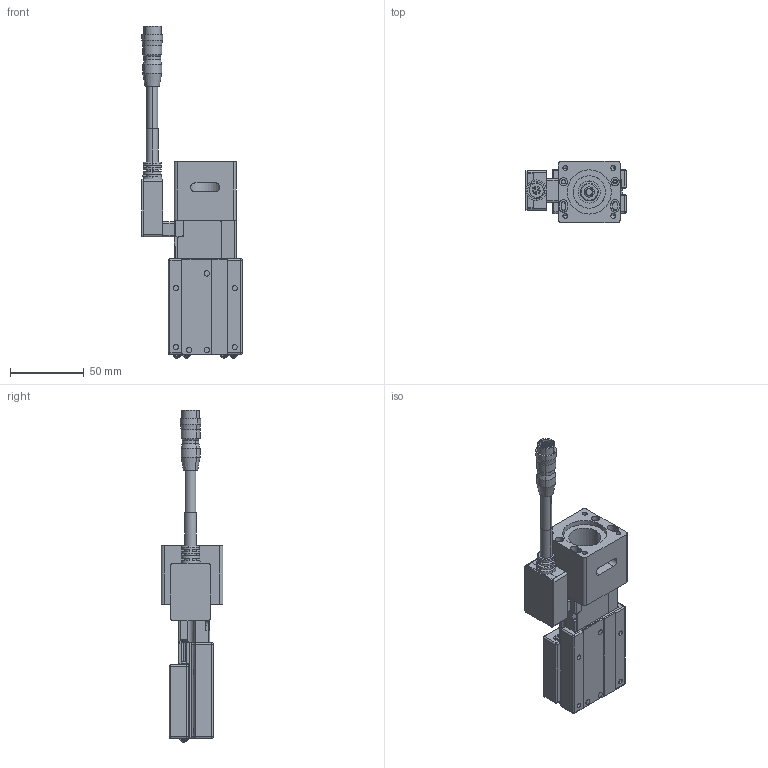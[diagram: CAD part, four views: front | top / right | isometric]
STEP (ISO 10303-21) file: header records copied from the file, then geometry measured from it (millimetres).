
FILE_DESCRIPTION (( 'STEP AP203' ), '1' );
FILE_NAME ('CXS5030(伺服M無馬達).STEP', '2023-12-12T00:07:06', ( '' ), ( '' ), 'SwSTEP 2.0', 'SolidWorks 2019', '' );
FILE_SCHEMA (( 'CONFIG_CONTROL_DESIGN' ));
Length unit declared in the file: millimetre
Products named in the file (6): HR10A-10J-12P; CXS5030(伺服M無馬達); Group2^CXS5030(伺服M無馬達)_defeature_GMT; 伺服馬達轉接板(P.C.D 46).step_GMT; Group1^CXS5030(伺服M無馬達)_defeature_GMT; 伺服馬達轉接軸.step_GMT
Assembly tree (5 placements, depth 2):
  CXS5030(伺服M無馬達)
    Group1^CXS5030(伺服M無馬達)_defeature_GMT
    Group2^CXS5030(伺服M無馬達)_defeature_GMT
    伺服馬達轉接軸.step_GMT
    伺服馬達轉接板(P.C.D 46).step_GMT
    HR10A-10J-12P
Bounding box: 68 x 42 x 225.51 mm (x, y, z)
Volume: 147582 mm3; surface area: 67008.7 mm2
Topology: 7 solids, 7 shells, 4724 faces, 12236 edges, 7751 vertices
Faces by surface type: plane 2525, bspline 1221, cylinder 726, cone 125, sphere 88, torus 39
Entity records: 157971 total; most frequent: CARTESIAN_POINT 52117, ORIENTED_EDGE 24268, DIRECTION 17210, EDGE_CURVE 12134, VERTEX_POINT 7751, LINE 6966, VECTOR 6966, EDGE_LOOP 5189
